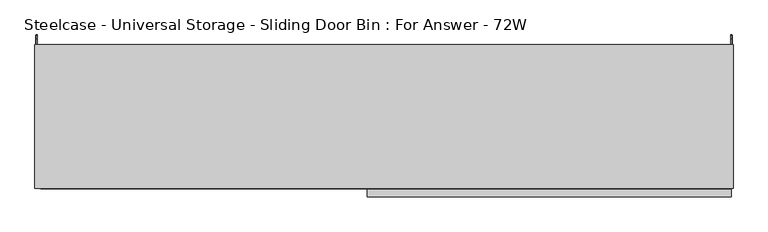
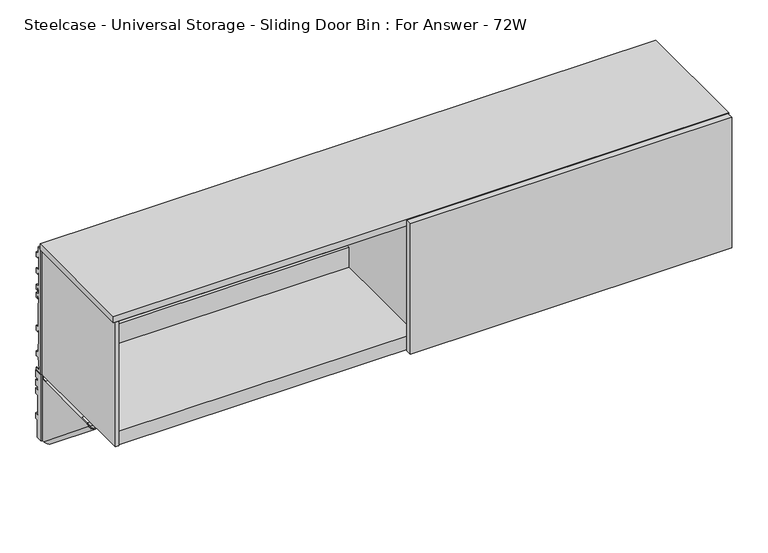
"""IFC4 building model written with IfcOpenShell, lengths in millimetres: furniture geometry, Steelcase - Universal Storage - Sliding Door Bin : For Answer - 72W."""

from ifc_helpers import new_model, si_unit, frame, origin, place, context, project, spatial, polyline, circle_curve, ellipse_curve, outline, extrude, faceted_brep, source, transform, mapped, element, save
from ifc_brep_helpers import plane_surface, cylinder_surface, revolved_surface, advanced_brep


def steelcase_universal_storage_sliding_door_bin_for_answer_72w_95640d8f(model_context):
    return source(origin(), model_context, "Body", "SolidModel", [
        advanced_brep(
        [(4.0894, 24.9864881, 1265.2629), (4.0894, 1.1327479, 1265.2629), (4.0894, 1.1203386, 1058.2783), (4.0894, 17.3410881, 1058.2783), (4.0894, 17.3410881, 1118.4254822), (4.0894, 21.4050888, 1118.4254822), (4.0894, 21.4050888, 1112.0755064), (4.0894, 24.9864881, 1112.0755064), (4.0894, 24.9864881, 1130.3381271), (4.0894, 14.7756879, 1130.3381271), (4.0894, 14.7756879, 1196.9115345), (4.0894, 18.8396885, 1196.9115345), (4.0894, 18.8396885, 1190.561486), (4.0894, 24.9864881, 1190.561486), (4.0894, 24.9864881, 1208.8241068), (4.0894, 14.7756879, 1208.8241068), (4.0894, 14.7756879, 1223.0735277), (4.0894, 18.8396885, 1223.0735277), (4.0894, 18.8396885, 1216.7234793), (4.0894, 24.9864881, 1216.7234793), (4.0894, 24.9864881, 1234.9861), (4.0894, 14.7756879, 1234.9861), (4.0894, 14.7756879, 1249.2355209), (4.0894, 18.8396885, 1249.2355209), (4.0894, 18.8396885, 1242.8854725), (4.0894, 24.9864881, 1242.8854725), (2.1844, 24.9864881, 1265.2629), (2.1844, 24.9864881, 1242.8854725), (2.1844, 18.8396885, 1242.8854725), (2.1844, 18.8396885, 1249.2355209), (2.1844, 14.7756879, 1249.2355209), (2.1844, 14.7756879, 1234.9861), (2.1844, 24.9864881, 1234.9861), (2.1844, 24.9864881, 1216.7234793), (2.1844, 18.8396885, 1216.7234793), (2.1844, 18.8396885, 1223.0735277), (2.1844, 14.7756879, 1223.0735277), (2.1844, 14.7756879, 1208.8241068), (2.1844, 24.9864881, 1208.8241068), (2.1844, 24.9864881, 1190.561486), (2.1844, 18.8396885, 1190.561486), (2.1844, 18.8396885, 1196.9115345), (2.1844, 14.7756879, 1196.9115345), (2.1844, 14.7756879, 1130.3381271), (2.1844, 24.9864881, 1130.3381271), (2.1844, 24.9864881, 1112.0755064), (2.1844, 21.4050888, 1112.0755064), (2.1844, 21.4050888, 1118.4254822), (2.1844, 17.3410881, 1118.4254822), (2.1844, 17.3410881, 1058.2783), (2.1844, -0.7757522, 1058.2783), (2.1844, -0.7757522, 1265.2629), (4.4891598, -3.080512, 1265.2629), (8.1026, -3.080512, 1265.2629), (8.1026, -1.7838863, 1265.2629), (7.4942256, -1.175512, 1265.2629), (6.3852506, -1.175512, 1265.2629), (6.3852506, -1.175512, 1058.2783), (7.4942256, -1.175512, 1058.2783), (8.1026, -1.7838863, 1058.2783), (8.1026, -3.080512, 1058.2783), (4.4891598, -3.080512, 1058.2783)],
        [
            (0, 1),
            (1, 2),
            (2, 3),
            (3, 4),
            (4, 5),
            (5, 6),
            (6, 7),
            (7, 8),
            (8, 9),
            (9, 10),
            (10, 11),
            (11, 12),
            (12, 13),
            (13, 14),
            (14, 15),
            (15, 16),
            (16, 17),
            (17, 18),
            (18, 19),
            (19, 20),
            (20, 21),
            (21, 22),
            (22, 23),
            (23, 24),
            (24, 25),
            (25, 0),
            (26, 27),
            (27, 28),
            (28, 29),
            (29, 30),
            (30, 31),
            (31, 32),
            (32, 33),
            (33, 34),
            (34, 35),
            (35, 36),
            (36, 37),
            (37, 38),
            (38, 39),
            (39, 40),
            (40, 41),
            (41, 42),
            (42, 43),
            (43, 44),
            (44, 45),
            (45, 46),
            (46, 47),
            (47, 48),
            (48, 49),
            (49, 50),
            (50, 51),
            (51, 26),
            (0, 26),
            (51, 52, circle_curve(frame((4.4891598, -0.7757522, 1265.2629), z_axis=(0.0, 0.0, 1.0), x_axis=(1.0, 0.0, 0.0)), 2.3047598)),
            (52, 53),
            (53, 54),
            (54, 55, circle_curve(frame((7.4942256, -1.7838863, 1265.2629), z_axis=(0.0, 0.0, 1.0), x_axis=(1.0, 0.0, 0.0)), 0.6083744)),
            (55, 56),
            (56, 1, circle_curve(frame((6.3852506, 1.1203386, 1265.2629), z_axis=(0.0, 0.0, -1.0), x_axis=(1.0, 0.0, 0.0)), 2.2958506)),
            (2, 57, circle_curve(frame((6.3852506, 1.1203386, 1058.2783), z_axis=(0.0, 0.0, 1.0), x_axis=(1.0, 0.0, 0.0)), 2.2958506)),
            (57, 58),
            (58, 59, circle_curve(frame((7.4942256, -1.7838863, 1058.2783), z_axis=(0.0, 0.0, -1.0), x_axis=(1.0, 0.0, 0.0)), 0.6083744)),
            (59, 60),
            (60, 61),
            (61, 50, circle_curve(frame((4.4891598, -0.7757522, 1058.2783), z_axis=(0.0, 0.0, -1.0), x_axis=(1.0, 0.0, 0.0)), 2.3047598)),
            (49, 3),
            (48, 4),
            (47, 5),
            (46, 6),
            (45, 7),
            (44, 8),
            (43, 9),
            (42, 10),
            (41, 11),
            (40, 12),
            (39, 13),
            (38, 14),
            (37, 15),
            (36, 16),
            (35, 17),
            (34, 18),
            (33, 19),
            (32, 20),
            (31, 21),
            (30, 22),
            (29, 23),
            (28, 24),
            (27, 25),
            (61, 52),
            (60, 53),
            (59, 54),
            (58, 55),
            (57, 56),
        ],
        [
            plane_surface(frame((4.0894, 1.241405, 1265.2629), z_axis=(1.0, 0.0, 0.0), x_axis=(0.0, -1.0, 0.0))),
            plane_surface(frame((2.1844, 1.241405, 1265.2629), z_axis=(-1.0, 0.0, 0.0), x_axis=(0.0, 1.0, 0.0))),
            plane_surface(frame((4.0894, 24.9864881, 1265.2629), z_axis=(0.0, 0.0, 1.0), x_axis=(-1.0, 0.0, 0.0))),
            plane_surface(frame((4.0894, 1.1327479, 1058.2783), z_axis=(0.0, 0.0, -1.0), x_axis=(-1.0, 0.0, 0.0))),
            plane_surface(frame((4.0894, 17.3410881, 1058.2783), z_axis=(0.0, 1.0, 0.0), x_axis=(-1.0, 0.0, 0.0))),
            plane_surface(frame((4.0894, 17.3410881, 1118.4254822), z_axis=(0.0, 0.0, -1.0), x_axis=(-1.0, 0.0, 0.0))),
            plane_surface(frame((4.0894, 21.4050888, 1118.4254822), z_axis=(0.0, -1.0, 0.0), x_axis=(-1.0, 0.0, 0.0))),
            plane_surface(frame((4.0894, 21.4050888, 1112.0755064), z_axis=(0.0, 0.0, -1.0), x_axis=(-1.0, 0.0, 0.0))),
            plane_surface(frame((4.0894, 24.9864881, 1112.0755064), z_axis=(0.0, 1.0, 0.0), x_axis=(-1.0, 0.0, 0.0))),
            plane_surface(frame((4.0894, 24.9864881, 1130.3381271), z_axis=(0.0, 0.0, 1.0), x_axis=(-1.0, 0.0, 0.0))),
            plane_surface(frame((4.0894, 14.7756879, 1130.3381271), z_axis=(0.0, 1.0, 0.0), x_axis=(-1.0, 0.0, 0.0))),
            plane_surface(frame((4.0894, 14.7756879, 1196.9115345), z_axis=(0.0, 0.0, -1.0), x_axis=(-1.0, 0.0, 0.0))),
            plane_surface(frame((4.0894, 18.8396885, 1196.9115345), z_axis=(0.0, -1.0, 0.0), x_axis=(-1.0, 0.0, 0.0))),
            plane_surface(frame((4.0894, 18.8396885, 1190.561486), z_axis=(0.0, 0.0, -1.0), x_axis=(-1.0, 0.0, 0.0))),
            plane_surface(frame((4.0894, 24.9864881, 1190.561486), z_axis=(0.0, 1.0, 0.0), x_axis=(-1.0, 0.0, 0.0))),
            plane_surface(frame((4.0894, 24.9864881, 1208.8241068), z_axis=(0.0, 0.0, 1.0), x_axis=(-1.0, 0.0, 0.0))),
            plane_surface(frame((4.0894, 14.7756879, 1208.8241068), z_axis=(0.0, 1.0, 0.0), x_axis=(-1.0, 0.0, 0.0))),
            plane_surface(frame((4.0894, 14.7756879, 1223.0735277), z_axis=(0.0, 0.0, -1.0), x_axis=(-1.0, 0.0, 0.0))),
            plane_surface(frame((4.0894, 18.8396885, 1223.0735277), z_axis=(0.0, -1.0, 0.0), x_axis=(-1.0, 0.0, 0.0))),
            plane_surface(frame((4.0894, 18.8396885, 1216.7234793), z_axis=(0.0, 0.0, -1.0), x_axis=(-1.0, 0.0, 0.0))),
            plane_surface(frame((4.0894, 24.9864881, 1216.7234793), z_axis=(0.0, 1.0, 0.0), x_axis=(-1.0, 0.0, 0.0))),
            plane_surface(frame((4.0894, 24.9864881, 1234.9861), z_axis=(0.0, 0.0, 1.0), x_axis=(-1.0, 0.0, 0.0))),
            plane_surface(frame((4.0894, 14.7756879, 1234.9861), z_axis=(0.0, 1.0, 0.0), x_axis=(-1.0, 0.0, 0.0))),
            plane_surface(frame((4.0894, 14.7756879, 1249.2355209), z_axis=(0.0, 0.0, -1.0), x_axis=(-1.0, 0.0, 0.0))),
            plane_surface(frame((4.0894, 18.8396885, 1249.2355209), z_axis=(0.0, -1.0, 0.0), x_axis=(-1.0, 0.0, 0.0))),
            plane_surface(frame((4.0894, 18.8396885, 1242.8854725), z_axis=(0.0, 0.0, -1.0), x_axis=(-1.0, 0.0, 0.0))),
            plane_surface(frame((4.0894, 24.9864881, 1242.8854725), z_axis=(0.0, 1.0, 0.0), x_axis=(-1.0, 0.0, 0.0))),
            cylinder_surface(frame((4.4891598, -0.7757522, 1058.2783), z_axis=(0.0, 0.0, 1.0), x_axis=(1.0, 0.0, 0.0)), 2.3047598),
            plane_surface(frame((4.4891598, -3.080512, 1265.2629), z_axis=(0.0, -1.0, 0.0), x_axis=(0.0, 0.0, -1.0))),
            plane_surface(frame((8.1026, -3.080512, 1265.2629), z_axis=(1.0, 0.0, 0.0), x_axis=(0.0, 0.0, -1.0))),
            cylinder_surface(frame((7.4942256, -1.7838863, 1058.2783), z_axis=(0.0, 0.0, 1.0), x_axis=(1.0, 0.0, 0.0)), 0.6083744),
            plane_surface(frame((7.4942256, -1.175512, 1265.2629), z_axis=(0.0, 1.0, 0.0), x_axis=(0.0, 0.0, -1.0))),
            revolved_surface(polyline([(8.6811012, 1.1203386, 1058.2783), (8.6811012, 1.1203386, 1265.2629)]), (6.3852506, 1.1203386, 1058.2783), (0.0, 0.0, -1.0)),
        ],
        [
            (0, [[1, 2, 3, 4, 5, 6, 7, 8, 9, 10, 11, 12, 13, 14, 15, 16, 17, 18, 19, 20, 21, 22, 23, 24, 25, 26]]),
            (1, [[27, 28, 29, 30, 31, 32, 33, 34, 35, 36, 37, 38, 39, 40, 41, 42, 43, 44, 45, 46, 47, 48, 49, 50, 51, 52]]),
            (2, [[-1, 53, -52, 54, 55, 56, 57, 58, 59]]),
            (3, [[-3, 60, 61, 62, 63, 64, 65, -50, 66]]),
            (4, [[-4, -66, -49, 67]]),
            (5, [[-5, -67, -48, 68]]),
            (6, [[-6, -68, -47, 69]]),
            (7, [[-7, -69, -46, 70]]),
            (8, [[-8, -70, -45, 71]]),
            (9, [[-9, -71, -44, 72]]),
            (10, [[-10, -72, -43, 73]]),
            (11, [[-11, -73, -42, 74]]),
            (12, [[-12, -74, -41, 75]]),
            (13, [[-13, -75, -40, 76]]),
            (14, [[-14, -76, -39, 77]]),
            (15, [[-15, -77, -38, 78]]),
            (16, [[-16, -78, -37, 79]]),
            (17, [[-17, -79, -36, 80]]),
            (18, [[-18, -80, -35, 81]]),
            (19, [[-19, -81, -34, 82]]),
            (20, [[-20, -82, -33, 83]]),
            (21, [[-21, -83, -32, 84]]),
            (22, [[-22, -84, -31, 85]]),
            (23, [[-23, -85, -30, 86]]),
            (24, [[-24, -86, -29, 87]]),
            (25, [[-25, -87, -28, 88]]),
            (26, [[-26, -88, -27, -53]]),
            (27, [[-54, -51, -65, 89]]),
            (28, [[-55, -89, -64, 90]]),
            (29, [[-56, -90, -63, 91]]),
            (30, [[-57, -91, -62, 92]]),
            (31, [[-58, -92, -61, 93]]),
            (32, [[-59, -93, -60, -2]]),
        ],
    ),
        advanced_brep(
        [(1824.7106, 24.9864881, 1265.2629), (1824.7106, 24.9864881, 1242.8854725), (1824.7106, 18.8396885, 1242.8854725), (1824.7106, 18.8396885, 1249.2355209), (1824.7106, 14.7756879, 1249.2355209), (1824.7106, 14.7756879, 1234.9861), (1824.7106, 24.9864881, 1234.9861), (1824.7106, 24.9864881, 1216.7234793), (1824.7106, 18.8396885, 1216.7234793), (1824.7106, 18.8396885, 1223.0735277), (1824.7106, 14.7756879, 1223.0735277), (1824.7106, 14.7756879, 1208.8241068), (1824.7106, 24.9864881, 1208.8241068), (1824.7106, 24.9864881, 1190.561486), (1824.7106, 18.8396885, 1190.561486), (1824.7106, 18.8396885, 1196.9115345), (1824.7106, 14.7756879, 1196.9115345), (1824.7106, 14.7756879, 1130.3381271), (1824.7106, 24.9864881, 1130.3381271), (1824.7106, 24.9864881, 1112.0755064), (1824.7106, 21.4050888, 1112.0755064), (1824.7106, 21.4050888, 1118.4254822), (1824.7106, 17.3410881, 1118.4254822), (1824.7106, 17.3410881, 1058.2783), (1824.7106, 1.1327479, 1058.2783), (1824.7106, 1.1203386, 1265.2629), (1826.6156, -0.7757522, 1265.2629), (1826.6156, -0.7757522, 1058.2783), (1826.6156, 17.3410881, 1058.2783), (1826.6156, 17.3410881, 1118.4254822), (1826.6156, 21.4050888, 1118.4254822), (1826.6156, 21.4050888, 1112.0755064), (1826.6156, 24.9864881, 1112.0755064), (1826.6156, 24.9864881, 1130.3381271), (1826.6156, 14.7756879, 1130.3381271), (1826.6156, 14.7756879, 1196.9115345), (1826.6156, 18.8396885, 1196.9115345), (1826.6156, 18.8396885, 1190.561486), (1826.6156, 24.9864881, 1190.561486), (1826.6156, 24.9864881, 1208.8241068), (1826.6156, 14.7756879, 1208.8241068), (1826.6156, 14.7756879, 1223.0735277), (1826.6156, 18.8396885, 1223.0735277), (1826.6156, 18.8396885, 1216.7234793), (1826.6156, 24.9864881, 1216.7234793), (1826.6156, 24.9864881, 1234.9861), (1826.6156, 14.7756879, 1234.9861), (1826.6156, 14.7756879, 1249.2355209), (1826.6156, 18.8396885, 1249.2355209), (1826.6156, 18.8396885, 1242.8854725), (1826.6156, 24.9864881, 1242.8854725), (1826.6156, 24.9864881, 1265.2629), (1824.3108402, -3.080512, 1058.2783), (1820.9006, -3.080512, 1058.2783), (1820.9006, -1.7838863, 1058.2783), (1821.5089744, -1.175512, 1058.2783), (1822.4147494, -1.175512, 1058.2783), (1822.4147494, -1.175512, 1265.2629), (1821.5089744, -1.175512, 1265.2629), (1820.9006, -1.7838863, 1265.2629), (1820.9006, -3.080512, 1265.2629), (1824.3108402, -3.080512, 1265.2629)],
        [
            (0, 1),
            (1, 2),
            (2, 3),
            (3, 4),
            (4, 5),
            (5, 6),
            (6, 7),
            (7, 8),
            (8, 9),
            (9, 10),
            (10, 11),
            (11, 12),
            (12, 13),
            (13, 14),
            (14, 15),
            (15, 16),
            (16, 17),
            (17, 18),
            (18, 19),
            (19, 20),
            (20, 21),
            (21, 22),
            (22, 23),
            (23, 24),
            (24, 25),
            (25, 0),
            (26, 27),
            (27, 28),
            (28, 29),
            (29, 30),
            (30, 31),
            (31, 32),
            (32, 33),
            (33, 34),
            (34, 35),
            (35, 36),
            (36, 37),
            (37, 38),
            (38, 39),
            (39, 40),
            (40, 41),
            (41, 42),
            (42, 43),
            (43, 44),
            (44, 45),
            (45, 46),
            (46, 47),
            (47, 48),
            (48, 49),
            (49, 50),
            (50, 51),
            (51, 26),
            (0, 51),
            (50, 1),
            (49, 2),
            (48, 3),
            (47, 4),
            (46, 5),
            (45, 6),
            (44, 7),
            (43, 8),
            (42, 9),
            (41, 10),
            (40, 11),
            (39, 12),
            (38, 13),
            (37, 14),
            (36, 15),
            (35, 16),
            (34, 17),
            (33, 18),
            (32, 19),
            (31, 20),
            (30, 21),
            (29, 22),
            (28, 23),
            (27, 52, circle_curve(frame((1824.3108402, -0.7757522, 1058.2783), z_axis=(0.0, 0.0, -1.0), x_axis=(0.0, 1.0, 0.0)), 2.3047598)),
            (52, 53),
            (53, 54),
            (54, 55, circle_curve(frame((1821.5089744, -1.7838863, 1058.2783), z_axis=(0.0, 0.0, -1.0), x_axis=(0.0, 1.0, 0.0)), 0.6083744)),
            (55, 56),
            (56, 24, circle_curve(frame((1822.4147494, 1.1203386, 1058.2783), z_axis=(0.0, 0.0, 1.0), x_axis=(0.0, 1.0, 0.0)), 2.2958506)),
            (25, 57, circle_curve(frame((1822.4147494, 1.1203386, 1265.2629), z_axis=(0.0, 0.0, -1.0), x_axis=(0.0, 1.0, 0.0)), 2.2958506)),
            (57, 58),
            (58, 59, circle_curve(frame((1821.5089744, -1.7838863, 1265.2629), z_axis=(0.0, 0.0, 1.0), x_axis=(0.0, 1.0, 0.0)), 0.6083744)),
            (59, 60),
            (60, 61),
            (61, 26, circle_curve(frame((1824.3108402, -0.7757522, 1265.2629), z_axis=(0.0, 0.0, 1.0), x_axis=(0.0, 1.0, 0.0)), 2.3047598)),
            (56, 57),
            (55, 58),
            (54, 59),
            (53, 60),
            (52, 61),
        ],
        [
            plane_surface(frame((1824.7106, 24.9864881, 1265.2629), z_axis=(-1.0, 0.0, 0.0), x_axis=(0.0, 0.0, -1.0))),
            plane_surface(frame((1826.6156, 24.9864881, 1265.2629), z_axis=(1.0, 0.0, 0.0), x_axis=(0.0, 0.0, 1.0))),
            plane_surface(frame((1824.7106, 24.9864881, 1265.2629), z_axis=(0.0, 1.0, 0.0), x_axis=(1.0, 0.0, 0.0))),
            plane_surface(frame((1824.7106, 24.9864881, 1242.8854725), z_axis=(0.0, 0.0, -1.0), x_axis=(1.0, 0.0, 0.0))),
            plane_surface(frame((1824.7106, 18.8396885, 1242.8854725), z_axis=(0.0, -1.0, 0.0), x_axis=(1.0, 0.0, 0.0))),
            plane_surface(frame((1824.7106, 18.8396885, 1249.2355209), z_axis=(0.0, 0.0, -1.0), x_axis=(1.0, 0.0, 0.0))),
            plane_surface(frame((1824.7106, 14.7756879, 1249.2355209), z_axis=(0.0, 1.0, 0.0), x_axis=(1.0, 0.0, 0.0))),
            plane_surface(frame((1824.7106, 14.7756879, 1234.9861), z_axis=(0.0, 0.0, 1.0), x_axis=(1.0, 0.0, 0.0))),
            plane_surface(frame((1824.7106, 24.9864881, 1234.9861), z_axis=(0.0, 1.0, 0.0), x_axis=(1.0, 0.0, 0.0))),
            plane_surface(frame((1824.7106, 24.9864881, 1216.7234793), z_axis=(0.0, 0.0, -1.0), x_axis=(1.0, 0.0, 0.0))),
            plane_surface(frame((1824.7106, 18.8396885, 1216.7234793), z_axis=(0.0, -1.0, 0.0), x_axis=(1.0, 0.0, 0.0))),
            plane_surface(frame((1824.7106, 18.8396885, 1223.0735277), z_axis=(0.0, 0.0, -1.0), x_axis=(1.0, 0.0, 0.0))),
            plane_surface(frame((1824.7106, 14.7756879, 1223.0735277), z_axis=(0.0, 1.0, 0.0), x_axis=(1.0, 0.0, 0.0))),
            plane_surface(frame((1824.7106, 14.7756879, 1208.8241068), z_axis=(0.0, 0.0, 1.0), x_axis=(1.0, 0.0, 0.0))),
            plane_surface(frame((1824.7106, 24.9864881, 1208.8241068), z_axis=(0.0, 1.0, 0.0), x_axis=(1.0, 0.0, 0.0))),
            plane_surface(frame((1824.7106, 24.9864881, 1190.561486), z_axis=(0.0, 0.0, -1.0), x_axis=(1.0, 0.0, 0.0))),
            plane_surface(frame((1824.7106, 18.8396885, 1190.561486), z_axis=(0.0, -1.0, 0.0), x_axis=(1.0, 0.0, 0.0))),
            plane_surface(frame((1824.7106, 18.8396885, 1196.9115345), z_axis=(0.0, 0.0, -1.0), x_axis=(1.0, 0.0, 0.0))),
            plane_surface(frame((1824.7106, 14.7756879, 1196.9115345), z_axis=(0.0, 1.0, 0.0), x_axis=(1.0, 0.0, 0.0))),
            plane_surface(frame((1824.7106, 14.7756879, 1130.3381271), z_axis=(0.0, 0.0, 1.0), x_axis=(1.0, 0.0, 0.0))),
            plane_surface(frame((1824.7106, 24.9864881, 1130.3381271), z_axis=(0.0, 1.0, 0.0), x_axis=(1.0, 0.0, 0.0))),
            plane_surface(frame((1824.7106, 24.9864881, 1112.0755064), z_axis=(0.0, 0.0, -1.0), x_axis=(1.0, 0.0, 0.0))),
            plane_surface(frame((1824.7106, 21.4050888, 1112.0755064), z_axis=(0.0, -1.0, 0.0), x_axis=(1.0, 0.0, 0.0))),
            plane_surface(frame((1824.7106, 21.4050888, 1118.4254822), z_axis=(0.0, 0.0, -1.0), x_axis=(1.0, 0.0, 0.0))),
            plane_surface(frame((1824.7106, 17.3410881, 1118.4254822), z_axis=(0.0, 1.0, 0.0), x_axis=(1.0, 0.0, 0.0))),
            plane_surface(frame((1824.7106, 17.3410881, 1058.2783), z_axis=(0.0, 0.0, -1.0), x_axis=(1.0, 0.0, 0.0))),
            plane_surface(frame((1824.7106, 1.1327479, 1265.2629), z_axis=(0.0, 0.0, 1.0), x_axis=(1.0, 0.0, 0.0))),
            revolved_surface(polyline([(1822.4147494, 3.4161892, 1058.2783), (1822.4147494, 3.4161892, 1265.2629)]), (1822.4147494, 1.1203386, 1058.2783), (0.0, 0.0, -1.0)),
            plane_surface(frame((1822.4147494, -1.175512, 1265.2629), z_axis=(0.0, 1.0, 0.0), x_axis=(0.0, 0.0, -1.0))),
            cylinder_surface(frame((1821.5089744, -1.7838863, 1058.2783), z_axis=(0.0, 0.0, 1.0), x_axis=(0.0, 1.0, 0.0)), 0.6083744),
            plane_surface(frame((1820.9006, -1.7838863, 1265.2629), z_axis=(-1.0, 0.0, 0.0), x_axis=(0.0, 0.0, -1.0))),
            plane_surface(frame((1820.9006, -3.080512, 1265.2629), z_axis=(9.277170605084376e-12, -1.0, 0.0), x_axis=(0.0, 0.0, -1.0))),
            cylinder_surface(frame((1824.3108402, -0.7757522, 1058.2783), z_axis=(0.0, 0.0, 1.0), x_axis=(0.0, 1.0, 0.0)), 2.3047598),
        ],
        [
            (0, [[1, 2, 3, 4, 5, 6, 7, 8, 9, 10, 11, 12, 13, 14, 15, 16, 17, 18, 19, 20, 21, 22, 23, 24, 25, 26]]),
            (1, [[27, 28, 29, 30, 31, 32, 33, 34, 35, 36, 37, 38, 39, 40, 41, 42, 43, 44, 45, 46, 47, 48, 49, 50, 51, 52]]),
            (2, [[-1, 53, -51, 54]]),
            (3, [[-2, -54, -50, 55]]),
            (4, [[-3, -55, -49, 56]]),
            (5, [[-4, -56, -48, 57]]),
            (6, [[-5, -57, -47, 58]]),
            (7, [[-6, -58, -46, 59]]),
            (8, [[-7, -59, -45, 60]]),
            (9, [[-8, -60, -44, 61]]),
            (10, [[-9, -61, -43, 62]]),
            (11, [[-10, -62, -42, 63]]),
            (12, [[-11, -63, -41, 64]]),
            (13, [[-12, -64, -40, 65]]),
            (14, [[-13, -65, -39, 66]]),
            (15, [[-14, -66, -38, 67]]),
            (16, [[-15, -67, -37, 68]]),
            (17, [[-16, -68, -36, 69]]),
            (18, [[-17, -69, -35, 70]]),
            (19, [[-18, -70, -34, 71]]),
            (20, [[-19, -71, -33, 72]]),
            (21, [[-20, -72, -32, 73]]),
            (22, [[-21, -73, -31, 74]]),
            (23, [[-22, -74, -30, 75]]),
            (24, [[-23, -75, -29, 76]]),
            (25, [[-24, -76, -28, 77, 78, 79, 80, 81, 82]]),
            (26, [[-26, 83, 84, 85, 86, 87, 88, -52, -53]]),
            (27, [[-83, -25, -82, 89]]),
            (28, [[-84, -89, -81, 90]]),
            (29, [[-85, -90, -80, 91]]),
            (30, [[-86, -91, -79, 92]]),
            (31, [[-87, -92, -78, 93]]),
            (32, [[-88, -93, -77, -27]]),
        ],
    ),
        advanced_brep(
        [(1799.7424, -230.0833372, 1251.1405), (1799.7424, 1.1327479, 1063.9053738), (1797.6342, 1.1327479, 1063.9053738), (1797.6342, -230.0833372, 1251.1405), (1797.6342, 1.1327479, 1058.2783), (1797.6342, -7.7654502, 1058.2783), (1797.6342, -240.6555763, 1246.8690381), (1820.9006, -7.7654502, 1058.2783), (1820.9006, -240.6555763, 1246.8690381), (1820.9006, 1.1327479, 1058.2783), (1820.9006, 1.1327479, 1063.9053738), (1820.9006, -3.080512, 1067.317205), (1820.9006, -3.080512, 1251.1405), (1820.9006, -230.0833372, 1251.1405), (1818.7924009, 1.1327479, 1063.9053738), (1818.7924009, -3.080512, 1067.317205), (1818.7924009, -7.7654502, 1058.2783), (1818.7924009, -240.6555763, 1246.8690381), (1818.7924009, -230.0833372, 1251.1405), (1818.7924009, -200.311512, 1251.1405), (1818.7924009, -200.311512, 1250.3023163), (1818.7924009, -14.0787123, 1250.3023163), (1818.7924009, -14.0787123, 1251.1405), (1818.7924009, -3.080512, 1251.1405), (1818.7924009, 1.1327479, 1058.2783), (1799.7424, -7.7654502, 1058.2783), (1799.7424, -240.6555763, 1246.8690381), (1799.7424, 1.1327479, 1058.2783), (1789.8617978, -200.311512, 1251.1405), (1789.8617978, -200.311512, 1269.5555016), (1789.0236, -200.311512, 1269.5555016), (1789.0236, -200.311512, 1250.3023163), (1789.0236, -82.5825138, 1269.5555016), (1789.8617978, -82.5825138, 1269.5555016), (1789.8617978, -82.5825138, 1251.1405), (1789.0236, -82.5825138, 1251.1405), (1789.0236, -14.0787123, 1251.1405), (1789.0236, -14.0787123, 1250.3023163)],
        [
            (0, 1),
            (1, 2),
            (2, 3),
            (3, 0),
            (2, 4),
            (4, 5),
            (5, 6),
            (6, 3),
            (5, 7, ellipse_curve(frame((1809.2674, -7.7654502, 1058.2783), z_axis=(0.0, 0.0, 1.0), x_axis=(0.0, -1.0, 0.0)), 18.4853359, 11.6332)),
            (7, 8),
            (8, 6, ellipse_curve(frame((1809.2674, -240.6555763, 1246.8690381), z_axis=(0.0, 0.374606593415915, -0.9271838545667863), x_axis=(0.0, -0.9271838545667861, -0.3746065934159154)), 13.3008659, 11.6332)),
            (7, 9),
            (9, 10),
            (10, 11),
            (11, 12),
            (12, 13),
            (13, 8),
            (10, 14),
            (14, 15),
            (15, 11),
            (16, 17),
            (17, 18),
            (18, 19),
            (19, 20),
            (20, 21),
            (21, 22),
            (22, 23),
            (23, 15),
            (14, 24),
            (24, 16),
            (16, 25, ellipse_curve(frame((1809.2674005, -7.7654502, 1058.2783), z_axis=(0.0, 0.0, -1.0), x_axis=(0.0, 1.0, 0.0)), 15.135374, 9.5250005)),
            (25, 26),
            (26, 17, ellipse_curve(frame((1809.2674005, -240.6555763, 1246.8690381), z_axis=(0.0, -0.374606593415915, 0.9271838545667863), x_axis=(0.0, 0.9271838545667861, 0.3746065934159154)), 10.8904475, 9.5250005)),
            (0, 26),
            (25, 27),
            (27, 1),
            (13, 18),
            (24, 9),
            (4, 27),
            (28, 29),
            (29, 30),
            (30, 31),
            (31, 20),
            (19, 28),
            (32, 33),
            (33, 34),
            (34, 35),
            (35, 32),
            (35, 36),
            (36, 37),
            (37, 31),
            (30, 32),
            (28, 34),
            (33, 29),
            (36, 22),
            (21, 37),
            (12, 23),
        ],
        [
            plane_surface(frame((1799.7424, -241.2702093, 1260.199452), z_axis=(0.0, 0.6293204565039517, 0.7771459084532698), x_axis=(0.0, 0.7771459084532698, -0.6293204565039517))),
            plane_surface(frame((1797.6342, -241.2702093, 1260.199452), z_axis=(-1.0000000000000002, 0.0, 0.0), x_axis=(0.0, 0.7771459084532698, -0.6293204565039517))),
            cylinder_surface(frame((1809.2674, 5.728998, 1047.3507094), z_axis=(0.0, -0.7771459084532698, 0.6293204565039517), x_axis=(0.0, 0.6293204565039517, 0.7771459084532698)), 11.6332),
            plane_surface(frame((1820.9006, -247.5463438, 1252.4490726), z_axis=(1.0, 0.0, 0.0), x_axis=(0.0, 0.77714590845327, -0.6293204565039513))),
            plane_surface(frame((1820.9006, -241.2702093, 1260.199452), z_axis=(0.0, 0.6293204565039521, 0.7771459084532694), x_axis=(0.0, 0.7771459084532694, -0.6293204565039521))),
            plane_surface(frame((1818.7924009, -241.2702093, 1260.199452), z_axis=(-1.0, 0.0, 0.0), x_axis=(0.0, 0.7771459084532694, -0.6293204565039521))),
            revolved_surface(polyline([(1809.2674005, 7.3699238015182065, 1058.2783000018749), (1809.2674005, -238.76446812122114, 1257.5940349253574)]), (1809.2674005, 5.728998, 1047.3507094), (0.0, 0.7771459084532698, -0.6293204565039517)),
            plane_surface(frame((1799.7424, -247.5463438, 1252.4490726), z_axis=(1.0, 0.0, 0.0), x_axis=(0.0, 0.77714590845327, -0.6293204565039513))),
            plane_surface(frame((1828.8, -257.2236519, 1240.1751011), z_axis=(0.0, -0.374606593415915, 0.9271838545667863), x_axis=(-1.0, 0.0, 0.0))),
            plane_surface(frame((1828.8, 1.1327479, 1058.2783), z_axis=(0.0, 0.0, -1.0), x_axis=(-1.0, 0.0, 0.0))),
            plane_surface(frame((1828.8, 1.1327479, 1070.9783), z_axis=(0.0, 1.0, 0.0), x_axis=(-1.0, 0.0, 0.0))),
            plane_surface(frame((1789.0236, -200.311512, 1269.5555016), z_axis=(0.0, -1.0, 0.0), x_axis=(0.0, 0.0, -1.0))),
            plane_surface(frame((1789.0236, -82.5825138, 1269.5555016), z_axis=(0.0, 1.0, 0.0), x_axis=(0.0, 0.0, 1.0))),
            plane_surface(frame((1789.0236, -200.311512, 1269.5555016), z_axis=(-1.0, 0.0, 0.0), x_axis=(0.0, 1.0, 0.0))),
            plane_surface(frame((1789.8617978, -200.311512, 1251.1405), z_axis=(1.0, 0.0, 0.0), x_axis=(0.0, 1.0, 0.0))),
            plane_surface(frame((1789.8617978, -200.311512, 1269.5555016), z_axis=(0.0, 0.0, 1.0), x_axis=(0.0, 1.0, 0.0))),
            plane_surface(frame((1789.0236, -14.0787123, 1251.1405), z_axis=(0.0, 1.0, 0.0), x_axis=(0.0, 0.0, 1.0))),
            plane_surface(frame((1789.0236, -200.311512, 1250.3023163), z_axis=(0.0, 0.0, -1.0), x_axis=(0.0, 1.0, 0.0))),
            plane_surface(frame((1820.9006, -200.311512, 1251.1405), z_axis=(0.0, 0.0, 1.0), x_axis=(0.0, 1.0, 0.0))),
            plane_surface(frame((1820.9006, -3.080512, 1067.317205), z_axis=(0.0, 1.0, 0.0), x_axis=(-1.0, 0.0, 0.0))),
        ],
        [
            (0, [[1, 2, 3, 4]]),
            (1, [[-3, 5, 6, 7, 8]]),
            (2, [[-7, 9, 10, 11]]),
            (3, [[-10, 12, 13, 14, 15, 16, 17]]),
            (4, [[18, 19, 20, -14]]),
            (5, [[21, 22, 23, 24, 25, 26, 27, 28, -19, 29, 30]]),
            (6, [[-21, 31, 32, 33]]),
            (7, [[-1, 34, -32, 35, 36]]),
            (8, [[-4, -8, -11, -17, 37, -22, -33, -34]]),
            (9, [[38, -12, -9, -6, 39, -35, -31, -30]]),
            (10, [[-38, -29, -18, -13]]),
            (10, [[-39, -5, -2, -36]]),
            (11, [[40, 41, 42, 43, -24, 44]]),
            (12, [[45, 46, 47, 48]]),
            (13, [[-48, 49, 50, 51, -42, 52]]),
            (14, [[-40, 53, -46, 54]]),
            (15, [[-41, -54, -45, -52]]),
            (16, [[-50, 55, -26, 56]]),
            (17, [[-51, -56, -25, -43]]),
            (18, [[57, -27, -55, -49, -47, -53, -44, -23, -37, -16]]),
            (19, [[-15, -20, -28, -57]]),
        ],
    ),
        advanced_brep(
        [(8.1026, -3.080512, 1067.317205), (8.1026, -3.080512, 1251.1405), (8.1026, -14.0787123, 1251.1405), (8.1026, -14.0787123, 1250.3023163), (8.1026, -200.311512, 1250.3023163), (8.1026, -200.311512, 1251.1405), (8.1026, -230.0833372, 1251.1405), (8.1026, -240.6555763, 1246.8690381), (8.1026, -7.7654502, 1058.2783), (8.1026, 1.1327479, 1058.2783), (8.1026, 1.1327479, 1063.9053738), (5.9944, -3.080512, 1251.1405), (5.9944, -3.080512, 1067.317205), (5.9944, 1.1327479, 1063.9053738), (5.9944, 1.1327479, 1058.2783), (5.9944, -7.7654502, 1058.2783), (5.9944, -240.6555763, 1246.8690381), (5.9944, -230.0833372, 1251.1405), (39.5732022, -200.311512, 1251.1405), (39.5732022, -82.5825138, 1251.1405), (40.4114, -82.5825138, 1251.1405), (40.4114, -14.0787123, 1251.1405), (29.2608, -7.7654502, 1058.2783), (29.2608, -240.6555763, 1246.8690381), (29.2608, 1.1327479, 1058.2783), (29.2608, 1.1327479, 1063.9053738), (29.2608, -230.0833372, 1251.1405), (27.1526009, 1.1327479, 1063.9053738), (27.1526009, -230.0833372, 1251.1405), (27.1526009, 1.1327479, 1058.2783), (27.1526009, -7.7654502, 1058.2783), (27.1526009, -240.6555763, 1246.8690381), (40.4114, -200.311512, 1250.3023163), (40.4114, -200.311512, 1269.5555016), (39.5732022, -200.311512, 1269.5555016), (40.4114, -14.0787123, 1250.3023163), (40.4114, -82.5825138, 1269.5555016), (39.5732022, -82.5825138, 1269.5555016)],
        [
            (0, 1),
            (1, 2),
            (2, 3),
            (3, 4),
            (4, 5),
            (5, 6),
            (6, 7),
            (7, 8),
            (8, 9),
            (9, 10),
            (10, 0),
            (11, 12),
            (12, 13),
            (13, 14),
            (14, 15),
            (15, 16),
            (16, 17),
            (17, 11),
            (17, 6),
            (5, 18),
            (18, 19),
            (19, 20),
            (20, 21),
            (21, 2),
            (1, 11),
            (0, 12),
            (10, 13),
            (15, 22, ellipse_curve(frame((17.6276, -7.7654502, 1058.2783), z_axis=(0.0, 0.0, 1.0), x_axis=(0.0, -1.0, 0.0)), 18.4853359, 11.6332)),
            (22, 23),
            (23, 16, ellipse_curve(frame((17.6276, -240.6555763, 1246.8690381), z_axis=(0.0, 0.374606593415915, -0.9271838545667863), x_axis=(0.0, -0.9271838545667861, -0.3746065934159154)), 13.3008659, 11.6332)),
            (22, 24),
            (24, 25),
            (25, 26),
            (26, 23),
            (25, 27),
            (27, 28),
            (28, 26),
            (27, 29),
            (29, 30),
            (30, 31),
            (31, 28),
            (7, 31, ellipse_curve(frame((17.6276005, -240.6555763, 1246.8690381), z_axis=(0.0, -0.374606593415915, 0.9271838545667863), x_axis=(0.0, 0.9271838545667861, 0.3746065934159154)), 10.8904475, 9.5250005)),
            (30, 8, ellipse_curve(frame((17.6276005, -7.7654502, 1058.2783), z_axis=(0.0, 0.0, -1.0), x_axis=(0.0, 1.0, 0.0)), 15.135374, 9.5250005)),
            (14, 9),
            (29, 24),
            (4, 32),
            (32, 33),
            (33, 34),
            (34, 18),
            (21, 35),
            (35, 3),
            (35, 32),
            (20, 36),
            (36, 33),
            (19, 37),
            (37, 36),
            (37, 34),
        ],
        [
            plane_surface(frame((8.1026, -230.0833372, 1251.1405), z_axis=(1.0, 0.0, 0.0), x_axis=(0.0, -1.0, 0.0))),
            plane_surface(frame((5.9944, -230.0833372, 1251.1405), z_axis=(-1.0, 0.0, 0.0), x_axis=(0.0, 1.0, 0.0))),
            plane_surface(frame((8.1026, -3.080512, 1251.1405), z_axis=(0.0, 0.0, 1.0), x_axis=(-1.0, 0.0, 0.0))),
            plane_surface(frame((8.1026, -3.080512, 1067.317205), z_axis=(0.0, 1.0, 0.0), x_axis=(-1.0, 0.0, 0.0))),
            plane_surface(frame((8.1026, -241.2702093, 1260.199452), z_axis=(0.0, 0.6293204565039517, 0.7771459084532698), x_axis=(0.0, 0.7771459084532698, -0.6293204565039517))),
            cylinder_surface(frame((17.6276, 5.728998, 1047.3507094), z_axis=(0.0, -0.7771459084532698, 0.6293204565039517), x_axis=(1.0, 0.0, 0.0)), 11.6332),
            plane_surface(frame((29.2608, -247.5463438, 1252.4490726), z_axis=(1.0000000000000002, 0.0, 0.0), x_axis=(0.0, 0.7771459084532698, -0.6293204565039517))),
            plane_surface(frame((29.2608, -241.2702093, 1260.199452), z_axis=(0.0, 0.6293204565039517, 0.7771459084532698), x_axis=(0.0, 0.7771459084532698, -0.6293204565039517))),
            plane_surface(frame((27.1526009, -241.2702093, 1260.199452), z_axis=(-1.0000000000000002, 0.0, 0.0), x_axis=(0.0, 0.7771459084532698, -0.6293204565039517))),
            revolved_surface(polyline([(27.152601, 1.375646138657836, 1050.8759848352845), (27.152601, -244.75874578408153, 1250.1917197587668)]), (17.6276005, 5.728998, 1047.3507094), (0.0, 0.7771459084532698, -0.6293204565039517)),
            plane_surface(frame((1828.8, -257.2236519, 1240.1751011), z_axis=(0.0, -0.374606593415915, 0.9271838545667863), x_axis=(-1.0, 0.0, 0.0))),
            plane_surface(frame((1828.8, 1.1327479, 1058.2783), z_axis=(0.0, 0.0, -1.0), x_axis=(-1.0, 0.0, 0.0))),
            plane_surface(frame((1828.8, 1.1327479, 1070.9783), z_axis=(0.0, 1.0, 0.0), x_axis=(-1.0, 0.0, 0.0))),
            plane_surface(frame((10.5986151, -200.311512, 1251.1405), z_axis=(0.0, -1.0, 0.0), x_axis=(-1.0, 0.0, 0.0))),
            plane_surface(frame((10.5986151, -14.0787123, 1251.1405), z_axis=(0.0, 1.0, 0.0), x_axis=(1.0, 0.0, 0.0))),
            plane_surface(frame((8.1026, -200.311512, 1250.3023163), z_axis=(0.0, 0.0, -1.0), x_axis=(0.0, 1.0, 0.0))),
            plane_surface(frame((40.4114, -200.311512, 1250.3023163), z_axis=(1.0, 0.0, 0.0), x_axis=(0.0, 1.0, 0.0))),
            plane_surface(frame((38.1509305, -82.5825138, 1269.5555016), z_axis=(0.0, 1.0, 0.0), x_axis=(1.0, 0.0, 0.0))),
            plane_surface(frame((40.4114, -200.311512, 1269.5555016), z_axis=(0.0, 0.0, 1.0), x_axis=(0.0, 1.0, 0.0))),
            plane_surface(frame((39.5732022, -200.311512, 1269.5555016), z_axis=(-1.0, 0.0, 0.0), x_axis=(0.0, 1.0, 0.0))),
        ],
        [
            (0, [[1, 2, 3, 4, 5, 6, 7, 8, 9, 10, 11]]),
            (1, [[12, 13, 14, 15, 16, 17, 18]]),
            (2, [[-18, 19, -6, 20, 21, 22, 23, 24, -2, 25]]),
            (3, [[-1, 26, -12, -25]]),
            (4, [[-26, -11, 27, -13]]),
            (5, [[-16, 28, 29, 30]]),
            (6, [[-29, 31, 32, 33, 34]]),
            (7, [[-33, 35, 36, 37]]),
            (8, [[-36, 38, 39, 40, 41]]),
            (9, [[-8, 42, -40, 43]]),
            (10, [[-7, -19, -17, -30, -34, -37, -41, -42]]),
            (11, [[44, -9, -43, -39, 45, -31, -28, -15]]),
            (12, [[-44, -14, -27, -10]]),
            (12, [[-45, -38, -35, -32]]),
            (13, [[46, 47, 48, 49, -20, -5]]),
            (14, [[50, 51, -3, -24]]),
            (15, [[-46, -4, -51, 52]]),
            (16, [[-47, -52, -50, -23, 53, 54]]),
            (17, [[-53, -22, 55, 56]]),
            (18, [[-48, -54, -56, 57]]),
            (19, [[-49, -57, -55, -21]]),
        ],
    ),
        faceted_brep([(1809.8516023, -9.7789998, 1657.6929), (1809.8516023, -9.7789998, 1669.5546326), (1809.8516023, -10.6172003, 1669.5546326), (1809.8516023, -10.6172003, 1656.854681), (1809.8516023, -0.8382, 1656.854681), (1809.8516023, -0.8382266, 1657.6929), (17.0434001, -9.7789998, 1657.6929), (17.0434001, -0.8382, 1657.6929), (17.0434001, -0.8382011, 1656.854681), (17.0434001, -10.6172003, 1656.854681), (17.0434001, -10.6172003, 1669.5546326), (17.0434001, -9.7789998, 1669.5546326), (1812.4837557, -30.9238769, 1657.6929), (1813.3187599, -30.850824, 1657.6929), (1810.6930117, -0.8382, 1657.6929), (1824.7106, -0.8382, 1657.6929), (1824.7106, 0.1784978, 1657.6929), (2.1844, 0.1784978, 1657.6929), (2.1844, -0.8382, 1657.6929), (16.2019988, -0.8382, 1657.6929), (13.5762335, -30.850824, 1657.6929), (14.4176356, -30.850824, 1657.6929), (1824.7106, 0.1784978, 1265.2629), (1824.7106, -0.8382, 1265.2629), (1810.6930117, -0.8382, 1265.2629), (1813.3187599, -30.850824, 1265.2629), (1812.4837557, -30.9238769, 1265.2629), (1809.8516, -0.8382, 1265.2629), (17.0434002, -0.8382, 1265.2629), (14.4176356, -30.850824, 1265.2629), (13.5762335, -30.850824, 1265.2629), (16.2019988, -0.8382, 1265.2629), (2.1844, -0.8382, 1265.2629), (2.1844, 0.1784978, 1265.2629)], [[[0, 1, 2, 3, 4, 5]], [[6, 7, 8, 9, 10, 11]], [[1, 0, 6, 11]], [[2, 1, 11, 10]], [[3, 2, 10, 9]], [[4, 3, 9, 8]], [[0, 5, 12, 13, 14, 15, 16, 17, 18, 19, 20, 21, 7, 6]], [[22, 23, 24, 25, 26, 27, 28, 29, 30, 31, 32, 33]], [[17, 16, 22, 33]], [[18, 17, 33, 32]], [[19, 18, 32, 31]], [[20, 19, 31, 30]], [[21, 20, 30, 29]], [[7, 21, 29, 28, 8]], [[28, 27, 4, 8]], [[12, 5, 4, 27, 26]], [[13, 12, 26, 25]], [[14, 13, 25, 24]], [[15, 14, 24, 23]], [[16, 15, 23, 22]]]),
        faceted_brep([(1793.3415999, -61.4680004, 1273.7210903), (1793.3415999, -61.4680004, 1266.1011), (1793.3415999, -60.6298021, 1266.1011), (1793.3415999, -60.6298021, 1273.7210903), (33.5534002, -61.4680004, 1273.7210903), (33.5534002, -60.6298021, 1273.7210903), (33.5534002, -60.6298021, 1266.1011), (33.5534002, -61.468, 1266.1011), (17.0434001, -61.4680004, 1266.1011), (17.0434001, -61.4680004, 1265.2629), (1809.8516023, -61.4680004, 1265.2629), (1809.8516023, -61.4680004, 1266.1011), (1809.8516023, -0.8382, 1265.2629), (1809.8516023, -0.8382, 1266.1011), (17.0434001, -0.8382, 1266.1011), (17.0434001, -0.8382, 1265.2629)], [[[0, 1, 2, 3]], [[4, 5, 6, 7]], [[1, 0, 4, 7, 8, 9, 10, 11]], [[3, 2, 6, 5]], [[0, 3, 5, 4]], [[11, 10, 12, 13]], [[8, 14, 15, 9]], [[12, 10, 9, 15]], [[13, 12, 15, 14]], [[11, 13, 14, 8, 7, 6, 2, 1]]]),
        extrude(outline(polyline([(870.099143, -379.476), (1824.3703, -379.476), (1824.3703, -398.526), (870.099143, -398.526), (870.099143, -379.476)])), frame((0.0, 0.0, 1266.8226746), z_axis=(0.0, 0.0, 1.0), x_axis=(1.0, 0.0, 0.0)), (0.0, 0.0, 1.0), 409.5773254),
        faceted_brep([(1828.8, -377.213238, 1676.4), (0.0, -377.213238, 1676.4), (0.0, -377.213238, 1657.35), (897.636, -377.213238, 1657.35), (897.636, -377.213238, 1310.7072052), (931.164, -377.213238, 1310.7072052), (931.164, -377.213238, 1657.35), (933.8674273, -377.213238, 1657.35), (1828.8, -377.213238, 1657.35), (1828.8, 0.0, 1676.4), (1828.8, 0.0, 1657.35), (933.8674273, 0.0, 1657.35), (0.0, 0.0, 1657.35), (0.0, 0.0, 1676.4), (931.164, -27.0763996, 1657.35), (897.636, -27.0763996, 1657.35), (931.164, -27.0763996, 1310.7072052), (897.636, -27.0763996, 1310.7072052)], [[[0, 1, 2, 3, 4, 5, 6, 7, 8]], [[9, 10, 11, 12, 13]], [[1, 0, 9, 13]], [[2, 1, 13, 12]], [[8, 7, 11, 10]], [[0, 8, 10, 9]], [[12, 11, 7, 6, 14, 15, 3, 2]], [[14, 16, 17, 15]], [[16, 14, 6, 5]], [[17, 16, 5, 4]], [[15, 17, 4, 3]]]),
        faceted_brep([(15.875, -377.213238, 1657.0959457), (5.5118, -377.213238, 1657.0959457), (5.5118, -377.213238, 1265.428), (15.875, -377.213238, 1265.428), (15.875, 0.0, 1657.0959457), (15.875, 0.0, 1265.428), (5.5118, 0.0, 1265.428), (5.5118, 0.0, 1657.0959457)], [[[0, 1, 2, 3]], [[4, 5, 6, 7]], [[1, 0, 4, 7]], [[2, 1, 7, 6]], [[3, 2, 6, 5]], [[0, 3, 5, 4]]]),
        faceted_brep([(1827.6568665, -377.213238, 1657.0959457), (1812.925, -377.213238, 1657.0959457), (1812.925, -377.213238, 1265.428), (1827.6568665, -377.213238, 1265.428), (1827.6568665, 0.0, 1657.0959457), (1827.6568665, 0.0, 1265.428), (1812.925, 0.0, 1265.428), (1812.925, 0.0, 1657.0959457)], [[[0, 1, 2, 3]], [[4, 5, 6, 7]], [[1, 0, 4, 7]], [[2, 1, 7, 6]], [[3, 2, 6, 5]], [[0, 3, 5, 4]]]),
        extrude(outline(polyline([(0.0, 1657.096), (15.428165, 1657.096), (15.428165, 1635.9725192), (24.6737648, 1635.9725192), (24.6737648, 1620.2499324), (17.7141651, 1620.2499324), (17.7141651, 1627.4034202), (15.428165, 1627.4034202), (13.3707653, 1623.8398995), (13.3707653, 1584.7332049), (24.4959651, 1584.7332049), (24.4959651, 1569.0106181), (17.7141651, 1569.0106181), (17.7141651, 1576.1734076), (15.428165, 1576.1734076), (13.3707653, 1572.6099624), (13.3707653, 1533.4938907), (24.6737648, 1533.4938907), (24.6737648, 1517.7713038), (17.5768, 1517.7713038), (17.5768, 1524.9340934), (15.4248855, 1524.9340934), (13.3349998, 1521.3219111), (13.3349998, 1508.4166423), (24.6737648, 1508.4166423), (24.6737648, 1492.6940555), (17.5768, 1492.6940555), (17.5768, 1499.856845), (15.4205129, 1499.856845), (13.3933344, 1496.3530466), (13.3933344, 1483.6530466), (15.428165, 1479.2893385), (15.428165, 1403.8551467), (24.6737648, 1403.8551467), (24.6737648, 1388.1325599), (17.7141651, 1388.1325599), (17.7141651, 1395.2982562), (15.428165, 1395.2982562), (13.3306079, 1391.6651808), (13.3306079, 1353.5651808), (15.428165, 1349.9321054), (15.428165, 1325.1000701), (24.6737648, 1325.1000701), (24.6737648, 1309.3774833), (17.7141651, 1309.3774833), (17.7141651, 1316.5328605), (15.428165, 1316.5328605), (15.428165, 1303.5355433), (13.2046809, 1299.684356), (13.2046809, 1282.9679719), (11.2879653, 1282.9679719), (11.2879653, 1271.9303504), (26.4009645, 1271.9303504), (26.4009645, 1265.428), (0.0, 1265.428), (0.0, 1657.096)])), frame((1823.2882, 0.0, 0.0), z_axis=(1.0, 0.0, 0.0), x_axis=(0.0, 1.0, 0.0)), (0.0, 0.0, 1.0), 1.905),
        extrude(outline(polyline([(0.0, 1657.096), (15.428165, 1657.096), (15.428165, 1635.9725192), (24.6737648, 1635.9725192), (24.6737648, 1620.2499324), (17.7141651, 1620.2499324), (17.7141651, 1627.4034202), (15.428165, 1627.4034202), (13.3707653, 1623.8398995), (13.3707653, 1584.7332049), (24.4959651, 1584.7332049), (24.4959651, 1569.0106181), (17.7141651, 1569.0106181), (17.7141651, 1576.1734076), (15.428165, 1576.1734076), (13.3707653, 1572.6099624), (13.3707653, 1533.4938907), (24.6737648, 1533.4938907), (24.6737648, 1517.7713038), (17.5768, 1517.7713038), (17.5768, 1524.9340934), (15.4248855, 1524.9340934), (13.3349998, 1521.3219111), (13.3349998, 1508.4166423), (24.6737648, 1508.4166423), (24.6737648, 1492.6940555), (17.5768, 1492.6940555), (17.5768, 1499.856845), (15.4205129, 1499.856845), (13.3933344, 1496.3530466), (13.3933344, 1483.6530466), (15.428165, 1479.2893385), (15.428165, 1403.8551467), (24.6737648, 1403.8551467), (24.6737648, 1388.1325599), (17.7141651, 1388.1325599), (17.7141651, 1395.2982562), (15.428165, 1395.2982562), (13.3306079, 1391.6651808), (13.3306079, 1353.5651808), (15.428165, 1349.9321054), (15.428165, 1325.1000701), (24.6737648, 1325.1000701), (24.6737648, 1309.3774833), (17.7141651, 1309.3774833), (17.7141651, 1316.5328605), (15.428165, 1316.5328605), (15.428165, 1303.5355433), (13.2046809, 1299.684356), (13.2046809, 1282.9679719), (11.2879653, 1282.9679719), (11.2879653, 1271.9303504), (26.4009645, 1271.9303504), (26.4009645, 1265.428), (0.0, 1265.428), (0.0, 1657.096)])), frame((3.6068, 0.0, 0.0), z_axis=(1.0, 0.0, 0.0), x_axis=(0.0, 1.0, 0.0)), (0.0, 0.0, 1.0), 1.905),
        extrude(outline(polyline([(-35.4584098, 1372.819257), (-27.0763996, 1372.819257), (-27.0763996, 1360.1191601), (-33.4264117, 1360.1191601), (-33.4264117, 1323.1622589), (-27.0763996, 1323.1622589), (-27.0763996, 1265.428), (-35.4584098, 1265.428), (-35.4584098, 1293.054213), (-46.1263996, 1293.054213), (-46.1263996, 1268.1875622), (-59.9694137, 1268.1875622), (-59.9694137, 1294.8575912), (-332.8542818, 1294.8575912), (-332.8542818, 1268.1875622), (-377.3042823, 1268.1875622), (-377.3042823, 1310.7072052), (-35.4584098, 1310.7072052), (-35.4584098, 1372.819257)])), frame((15.875, 0.0, 0.0), z_axis=(1.0, 0.0, 0.0), x_axis=(0.0, 1.0, 0.0)), (0.0, 0.0, 1.0), 1797.05),
    ])


if __name__ == "__main__":
    model = new_model("IFC4")
    model_context = context("Model", 3, world=origin())
    ifc_project = project(units=[si_unit("LENGTHUNIT", "METRE", prefix="MILLI")], contexts=[model_context])
    site = spatial("IfcSite", under=ifc_project)
    building = spatial("IfcBuilding", under=site)
    placement = place(None, origin())
    steelcase_universal_storage_sliding_door_bin_for_answer_72w_shape = steelcase_universal_storage_sliding_door_bin_for_answer_72w_95640d8f(model_context)
    element("IfcFurniture", 1, ObjectType="Steelcase - Universal Storage - Sliding Door Bin : For Answer - 72W", at=placement, inside=building, context=model_context, shape_type="MappedRepresentation", body=[
        mapped(steelcase_universal_storage_sliding_door_bin_for_answer_72w_shape, transform((0.0, 0.0, 0.0), x_axis=(1.0, 0.0, 0.0), y_axis=(0.0, 1.0, 0.0), z_axis=(0.0, 0.0, 1.0))),
    ])
    save(model, "model.ifc")
